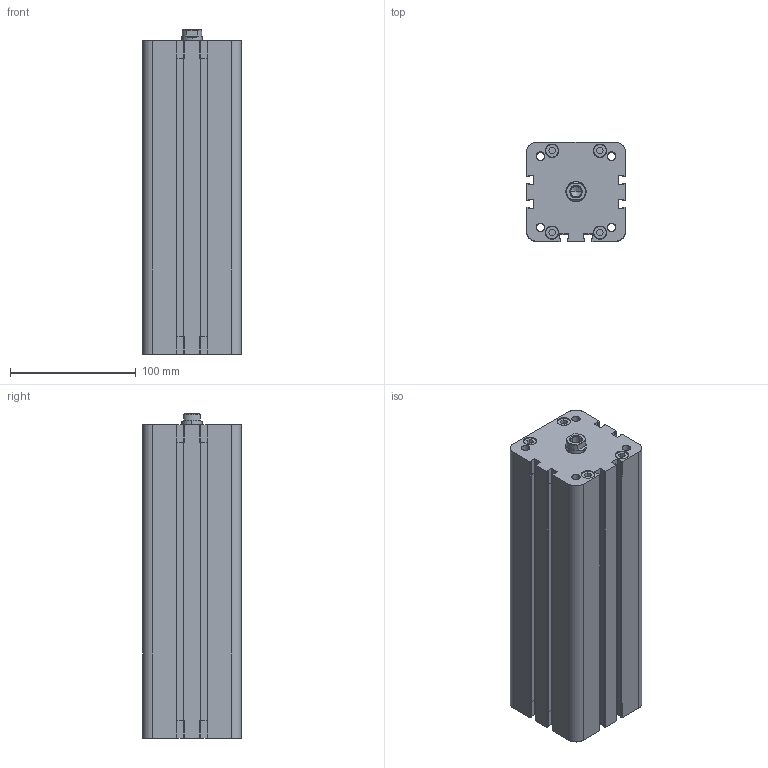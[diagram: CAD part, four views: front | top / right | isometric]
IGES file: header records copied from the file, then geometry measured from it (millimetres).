
Start section: SolidWorks IGES file using analytic representation for surfaces
Global section: file name: K:\Disegni Esecutivi\Cilindri\2_DISEGNI_cilindri_in_produzione\CILINDRO_ISO_21287\seconda versione cilindro 21287\2_CIL63\Complessivo W63\W63_PIENO\WF063\WF0630200A.igs; native system: SolidWorks 2011; preprocessor: SolidWorks 2011; author: Cad01; date: 120803.171331; units: millimetre
Bounding box: 78.5 x 78.5 x 257.5 mm (x, y, z)
Surface area: 132461.1 mm2 (no closed solid volume)
Topology: 0 solids, 0 shells, 457 faces, 4959 edges, 4957 vertices
Faces by surface type: bspline 230, revolution 227
